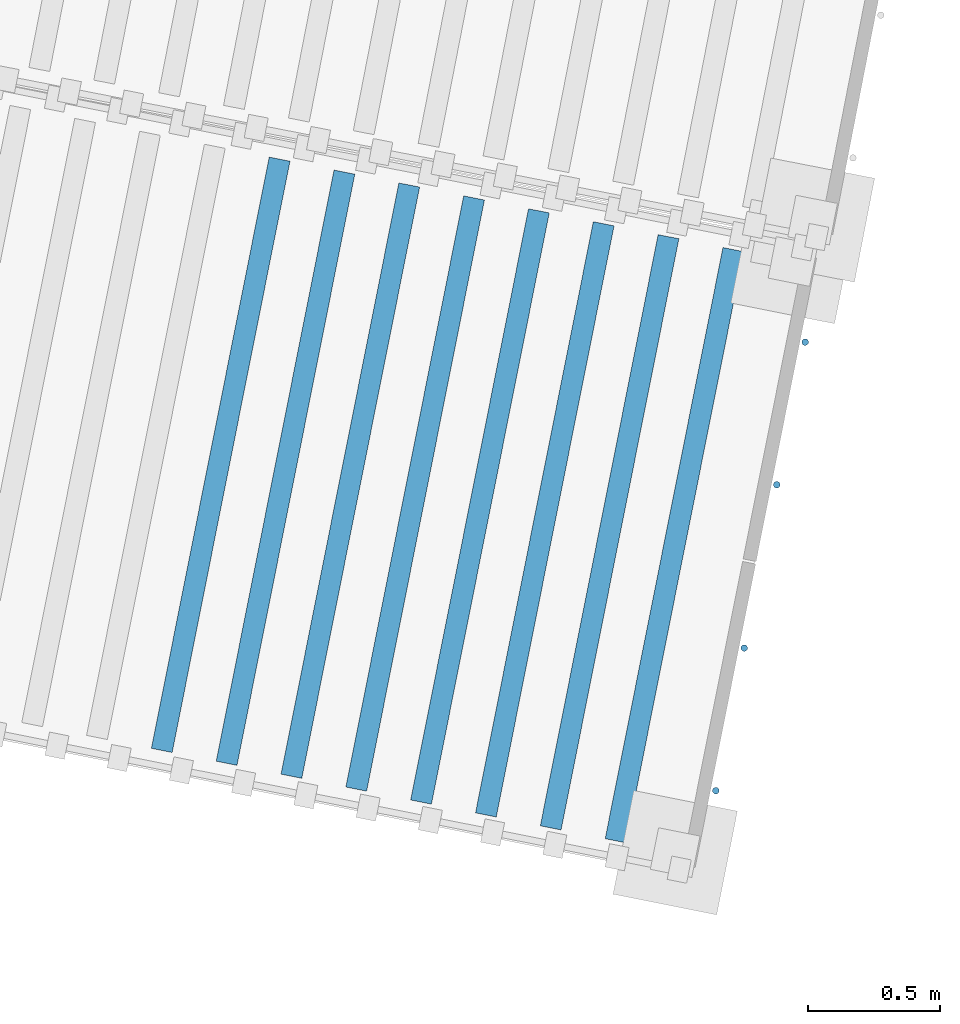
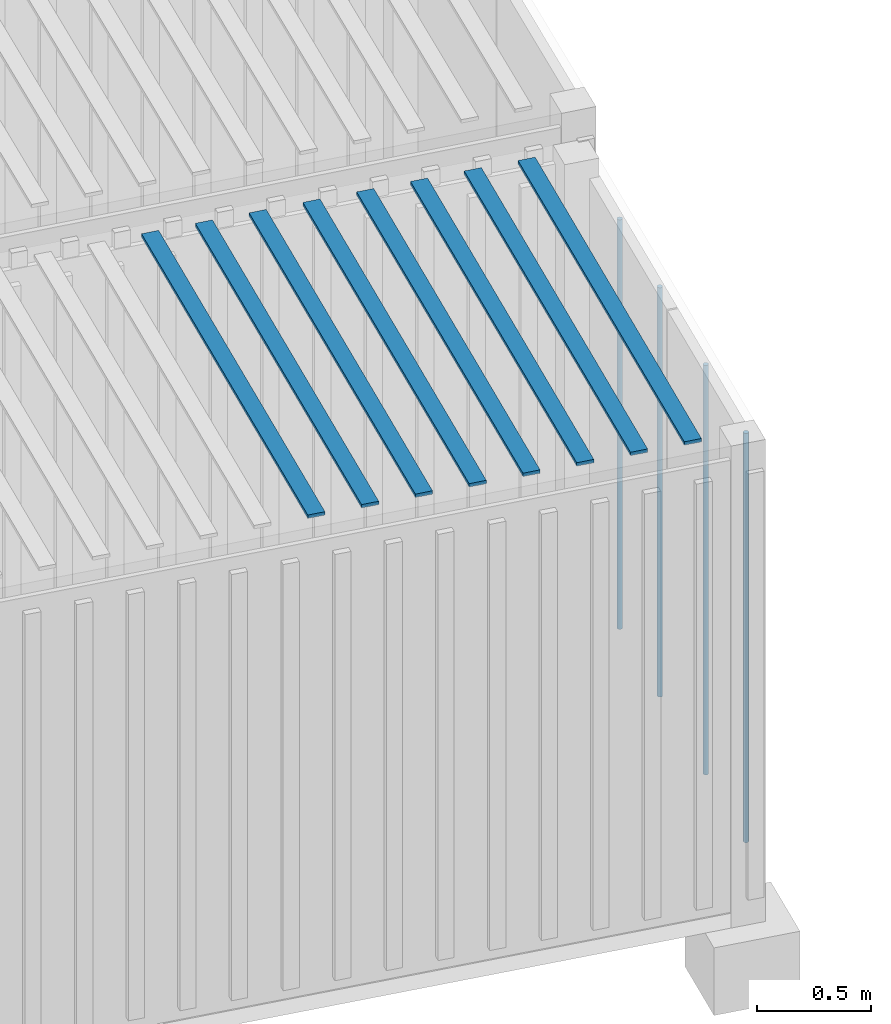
# One storey, part 27 of 142: 12 members, 1 element without a shape of its own.
"""IFC4 building model written with IfcOpenShell, lengths in metres."""

from ifc_helpers import new_model, si_unit, direction, frame, origin_with_axes, place, context, subcontext, project, spatial, polyline, circle, outline, extrude, material, material_profile, profile_set, profile_usage, type_object, element, aggregate, save


model = new_model("IFC4")

# Units and contexts
model_context = context("Model", 3, precision=1e-05, world=origin_with_axes(), true_north=direction((0.0, 1.0)))
body_context = subcontext(model_context, "Body", "Model", "MODEL_VIEW")
ifc_project = project(units=[si_unit("LENGTHUNIT", "METRE"), si_unit("AREAUNIT", "SQUARE_METRE"), si_unit("VOLUMEUNIT", "CUBIC_METRE")], contexts=[model_context])

# Site, building, storey
site_placement = place(None, origin_with_axes())
site = spatial("IfcSite", under=ifc_project, at=site_placement, Name="Lares · Rua das Mercês · artigo 4771")
building_placement = place(site_placement, frame((15.0, 9.7, 14.65), z_axis=(0.0, 0.0, 1.0), x_axis=(0.989015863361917, -0.147809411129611, 0.0)))
building = spatial("IfcBuilding", under=site, at=building_placement, Name="Casa Sobreposta")
storey_placement = place(building_placement, origin_with_axes())
storey = spatial("IfcBuildingStorey", under=building, at=storey_placement, Name="00 · Habitação e estacionamento", Elevation=14.65)

# Assembly, members
assembly_placement = place(storey_placement, frame((-14.5932944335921, 6.63122214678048, 0.0), z_axis=(0.0, 0.0, 1.0), x_axis=(0.998832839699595, -0.0483007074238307, 0.0)))
assembly = element("IfcElementAssembly", 1, at=assembly_placement, inside=storey, Name="Contentor existente 2 · 6 m", ObjectType="EXISTING_SHIPPING_CONTAINER", PredefinedType="USERDEFINED")
ifc_material_1 = material(Name="Aço galvanizado / Stahl verzinkt", Category="steel")
ifc_material_profile = material_profile(ifc_material_1, circle(Radius=0.0125))
ifc_profile_set = profile_set([ifc_material_profile], Name="D0.025")
ifc_profile_usage_1 = profile_usage(ifc_profile_set)
member_type = type_object("IfcMemberType", Name="D0.025 / galvanized", PredefinedType="NOTDEFINED", material=ifc_profile_set)
member_1_placement = place(assembly_placement, frame((6.025, 0.34, -0.968751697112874), z_axis=(0.0, 0.0, 1.0), x_axis=(1.0, 0.0, 0.0)))
member_1 = element("IfcMember", 2, at=member_1_placement, type_object=member_type, material=ifc_profile_usage_1, Name="Contentor · varão de fecho", context=body_context, shape_type="SweptSolid", body=[
    extrude(circle(Radius=0.0125), origin_with_axes(), (0.0, 0.0, 1.0), 2.2),
])
ifc_profile_usage_2 = profile_usage(ifc_profile_set)
member_2_placement = place(assembly_placement, frame((6.025, 0.89, -0.968751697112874), z_axis=(0.0, 0.0, 1.0), x_axis=(1.0, 0.0, 0.0)))
member_2 = element("IfcMember", 3, at=member_2_placement, type_object=member_type, material=ifc_profile_usage_2, Name="Contentor · varão de fecho", context=body_context, shape_type="SweptSolid", body=[
    extrude(circle(Radius=0.0125), origin_with_axes(), (0.0, 0.0, 1.0), 2.2),
])
ifc_profile_usage_3 = profile_usage(ifc_profile_set)
member_3_placement = place(assembly_placement, frame((6.025, 1.52, -0.968751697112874), z_axis=(0.0, 0.0, 1.0), x_axis=(1.0, 0.0, 0.0)))
member_3 = element("IfcMember", 4, at=member_3_placement, type_object=member_type, material=ifc_profile_usage_3, Name="Contentor · varão de fecho", context=body_context, shape_type="SweptSolid", body=[
    extrude(circle(Radius=0.0125), origin_with_axes(), (0.0, 0.0, 1.0), 2.2),
])
ifc_profile_usage_4 = profile_usage(ifc_profile_set)
member_4_placement = place(assembly_placement, frame((6.025, 2.07, -0.968751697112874), z_axis=(0.0, 0.0, 1.0), x_axis=(1.0, 0.0, 0.0)))
member_4 = element("IfcMember", 5, at=member_4_placement, type_object=member_type, material=ifc_profile_usage_4, Name="Contentor · varão de fecho", context=body_context, shape_type="SweptSolid", body=[
    extrude(circle(Radius=0.0125), origin_with_axes(), (0.0, 0.0, 1.0), 2.2),
])
ifc_material_2 = material(Name="Contentor · pintura 2", Category="steel")
member_5_placement = place(assembly_placement, frame((0.0, 0.0, 1.41624830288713), z_axis=(0.0, 0.0, 1.0), x_axis=(1.0, 0.0, 0.0)))
member_5 = element("IfcMember", 6, at=member_5_placement, material=ifc_material_2, Name="Contentor · nervura cobertura", context=body_context, shape_type="SweptSolid", body=[
    extrude(outline(polyline([(3.98, 0.08), (3.98, 2.36), (3.9, 2.36), (3.9, 0.08), (3.98, 0.08)])), origin_with_axes(), (0.0, 0.0, 1.0), 0.018),
])
member_6_placement = place(assembly_placement, frame((0.0, 0.0, 1.41624830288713), z_axis=(0.0, 0.0, 1.0), x_axis=(1.0, 0.0, 0.0)))
member_6 = element("IfcMember", 7, at=member_6_placement, material=ifc_material_2, Name="Contentor · nervura cobertura", context=body_context, shape_type="SweptSolid", body=[
    extrude(outline(polyline([(4.23, 0.08), (4.23, 2.36), (4.15, 2.36), (4.15, 0.08), (4.23, 0.08)])), origin_with_axes(), (0.0, 0.0, 1.0), 0.018),
])
member_7_placement = place(assembly_placement, frame((0.0, 0.0, 1.41624830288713), z_axis=(0.0, 0.0, 1.0), x_axis=(1.0, 0.0, 0.0)))
member_7 = element("IfcMember", 8, at=member_7_placement, material=ifc_material_2, Name="Contentor · nervura cobertura", context=body_context, shape_type="SweptSolid", body=[
    extrude(outline(polyline([(4.48, 0.08), (4.48, 2.36), (4.4, 2.36), (4.4, 0.08), (4.48, 0.08)])), origin_with_axes(), (0.0, 0.0, 1.0), 0.018),
])
member_8_placement = place(assembly_placement, frame((0.0, 0.0, 1.41624830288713), z_axis=(0.0, 0.0, 1.0), x_axis=(1.0, 0.0, 0.0)))
member_8 = element("IfcMember", 9, at=member_8_placement, material=ifc_material_2, Name="Contentor · nervura cobertura", context=body_context, shape_type="SweptSolid", body=[
    extrude(outline(polyline([(4.73, 0.08), (4.73, 2.36), (4.65, 2.36), (4.65, 0.08), (4.73, 0.08)])), origin_with_axes(), (0.0, 0.0, 1.0), 0.018),
])
member_9_placement = place(assembly_placement, frame((0.0, 0.0, 1.41624830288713), z_axis=(0.0, 0.0, 1.0), x_axis=(1.0, 0.0, 0.0)))
member_9 = element("IfcMember", 10, at=member_9_placement, material=ifc_material_2, Name="Contentor · nervura cobertura", context=body_context, shape_type="SweptSolid", body=[
    extrude(outline(polyline([(4.98, 0.08), (4.98, 2.36), (4.9, 2.36), (4.9, 0.08), (4.98, 0.08)])), origin_with_axes(), (0.0, 0.0, 1.0), 0.018),
])
member_10_placement = place(assembly_placement, frame((0.0, 0.0, 1.41624830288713), z_axis=(0.0, 0.0, 1.0), x_axis=(1.0, 0.0, 0.0)))
member_10 = element("IfcMember", 11, at=member_10_placement, material=ifc_material_2, Name="Contentor · nervura cobertura", context=body_context, shape_type="SweptSolid", body=[
    extrude(outline(polyline([(5.23, 0.08), (5.23, 2.36), (5.15, 2.36), (5.15, 0.08), (5.23, 0.08)])), origin_with_axes(), (0.0, 0.0, 1.0), 0.018),
])
member_11_placement = place(assembly_placement, frame((0.0, 0.0, 1.41624830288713), z_axis=(0.0, 0.0, 1.0), x_axis=(1.0, 0.0, 0.0)))
member_11 = element("IfcMember", 12, at=member_11_placement, material=ifc_material_2, Name="Contentor · nervura cobertura", context=body_context, shape_type="SweptSolid", body=[
    extrude(outline(polyline([(5.48, 0.08), (5.48, 2.36), (5.4, 2.36), (5.4, 0.08), (5.48, 0.08)])), origin_with_axes(), (0.0, 0.0, 1.0), 0.018),
])
member_12_placement = place(assembly_placement, frame((0.0, 0.0, 1.41624830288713), z_axis=(0.0, 0.0, 1.0), x_axis=(1.0, 0.0, 0.0)))
member_12 = element("IfcMember", 13, at=member_12_placement, material=ifc_material_2, Name="Contentor · nervura cobertura", context=body_context, shape_type="SweptSolid", body=[
    extrude(outline(polyline([(5.73, 0.08), (5.73, 2.36), (5.65, 2.36), (5.65, 0.08), (5.73, 0.08)])), origin_with_axes(), (0.0, 0.0, 1.0), 0.018),
])
aggregate(assembly, [member_1, member_2, member_3, member_4, member_5, member_6, member_7, member_8, member_9, member_10, member_11, member_12])

save(model, "model.ifc")
